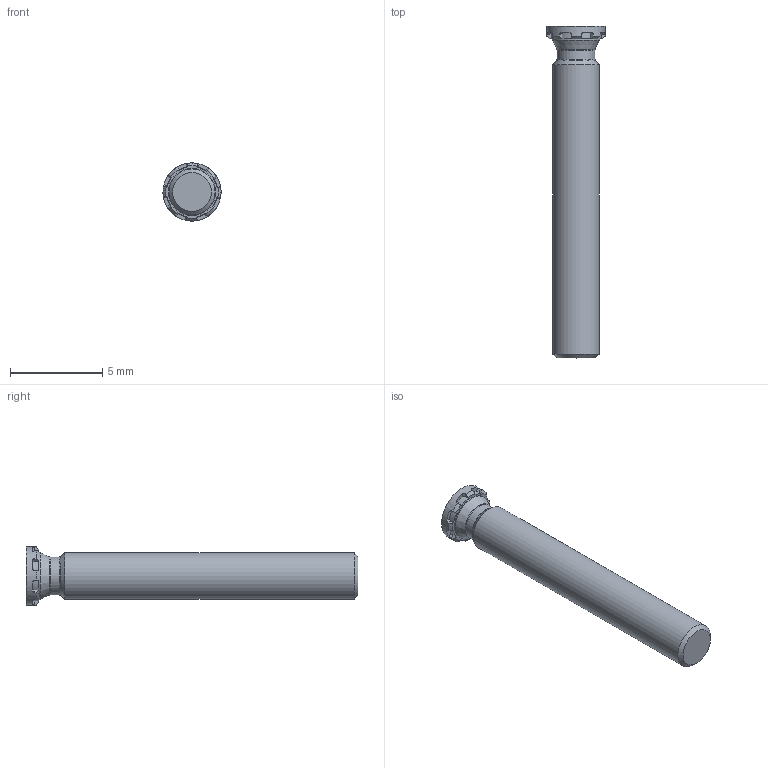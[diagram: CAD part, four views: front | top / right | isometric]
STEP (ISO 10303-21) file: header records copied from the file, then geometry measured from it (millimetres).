
FILE_DESCRIPTION(/* description */ (''),/* implementation_level */ '2;1');
FILE_NAME(/* name */ 'C:\Users\keval.kumar\Desktop\Fastit\Clinch Screw- Reduced FH Range\M2.5\Clinch Screw-Reduced FH Range_M2.5x18.stp',/* time_stamp */ '2024-03-12T12:41:32+05:00',/* author */ ('keval.kumar'),/* organization */ (''),/* preprocessor_version */ 'ST-DEVELOPER v18.1',/* originating_system */ 'Autodesk Inventor 2022',/* authorisation */ '');
FILE_SCHEMA (('AUTOMOTIVE_DESIGN { 1 0 10303 214 3 1 1 }'));
Length unit declared in the file: millimetre
Products named in the file (1): Clinch Screw-Reduced FH Range_M2.5x18
Bounding box: 3.15 x 18 x 3.15 mm (x, y, z)
Volume: 88.4 mm3; surface area: 156.9 mm2
Topology: 1 solids, 1 shells, 68 faces, 193 edges, 128 vertices
Faces by surface type: plane 43, cylinder 12, cone 11, torus 2
Full cylindrical faces by diameter (mm): 2.05 x1, 2.5 x1, 2.55 x1, 3.15 x1
Entity records: 2278 total; most frequent: CARTESIAN_POINT 422, DIRECTION 405, ORIENTED_EDGE 386, EDGE_CURVE 193, AXIS2_PLACEMENT_3D 159, VERTEX_POINT 128, LINE 87, VECTOR 87
